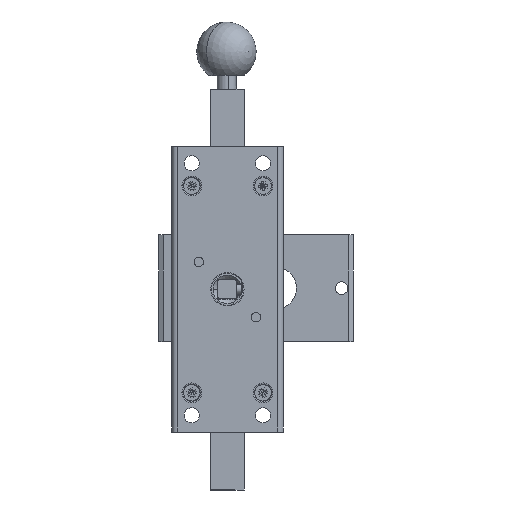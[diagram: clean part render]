
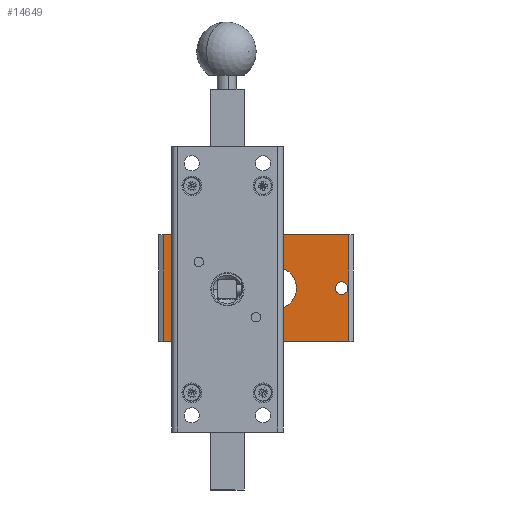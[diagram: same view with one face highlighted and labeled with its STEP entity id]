
A CAD part, front view. The second image highlights one B-rep face of the part: STEP entity #14649.
In plain terms, the highlighted planar face has unit normal (0, -1, 0) as drawn and (0, 0, 1) by its records, which use the part's own axes.
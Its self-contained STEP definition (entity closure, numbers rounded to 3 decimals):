
#101 = VERTEX_POINT ( 'NONE', #19185 ) ;
#416 = ORIENTED_EDGE ( 'NONE', *, *, #23453, .F. ) ;
#510 = VERTEX_POINT ( 'NONE', #23496 ) ;
#552 = LINE ( 'NONE', #13190, #14320 ) ;
#784 = CARTESIAN_POINT ( 'NONE',  ( 33., 22.5, 4. ) ) ;
#888 = ORIENTED_EDGE ( 'NONE', *, *, #12713, .T. ) ;
#951 = ORIENTED_EDGE ( 'NONE', *, *, #7923, .T. ) ;
#1323 = ORIENTED_EDGE ( 'NONE', *, *, #18962, .F. ) ;
#1489 = ORIENTED_EDGE ( 'NONE', *, *, #19384, .T. ) ;
#1651 = ORIENTED_EDGE ( 'NONE', *, *, #19684, .T. ) ;
#1780 = DIRECTION ( 'NONE',  ( 1., 0., 0. ) ) ;
#1827 = CARTESIAN_POINT ( 'NONE',  ( 33., 31.5, 4. ) ) ;
#1932 = EDGE_CURVE ( 'NONE', #10475, #20086, #10921, .T. ) ;
#1961 = ORIENTED_EDGE ( 'NONE', *, *, #2813, .F. ) ;
#2155 = VECTOR ( 'NONE', #18275, 1000. ) ;
#2417 = ORIENTED_EDGE ( 'NONE', *, *, #16027, .F. ) ;
#2473 = ORIENTED_EDGE ( 'NONE', *, *, #1932, .T. ) ;
#2510 = VERTEX_POINT ( 'NONE', #18686 ) ;
#2512 = LINE ( 'NONE', #9561, #7514 ) ;
#2591 = CIRCLE ( 'NONE', #13715, 2.65 ) ;
#2600 = VERTEX_POINT ( 'NONE', #15090 ) ;
#2623 = ORIENTED_EDGE ( 'NONE', *, *, #2859, .F. ) ;
#2696 = DIRECTION ( 'NONE',  ( 1., 0., 0. ) ) ;
#2813 = EDGE_CURVE ( 'NONE', #101, #9417, #8092, .T. ) ;
#2859 = EDGE_CURVE ( 'NONE', #9417, #4319, #7846, .T. ) ;
#2905 = EDGE_LOOP ( 'NONE', ( #20701, #2417, #2473, #1323, #2623, #1961, #416, #1651, #1489 ) ) ;
#3388 = DIRECTION ( 'NONE',  ( 0., 0., 1. ) ) ;
#3605 = CARTESIAN_POINT ( 'NONE',  ( 2.046, 45., 4. ) ) ;
#3748 = DIRECTION ( 'NONE',  ( 0., 0., 1. ) ) ;
#3865 = EDGE_LOOP ( 'NONE', ( #951, #888, #22017, #22300 ) ) ;
#4024 = LINE ( 'NONE', #15179, #22101 ) ;
#4319 = VERTEX_POINT ( 'NONE', #1827 ) ;
#4815 = AXIS2_PLACEMENT_3D ( 'NONE', #9463, #21947, #11364 ) ;
#4832 = LINE ( 'NONE', #21842, #7999 ) ;
#5168 = AXIS2_PLACEMENT_3D ( 'NONE', #784, #13921, #2696 ) ;
#5588 = CARTESIAN_POINT ( 'NONE',  ( 2.046, 0., 4. ) ) ;
#5617 = EDGE_CURVE ( 'NONE', #2510, #15841, #22046, .T. ) ;
#5644 = DIRECTION ( 'NONE',  ( -1., 0., 0. ) ) ;
#5824 = DIRECTION ( 'NONE',  ( -1., 0., 0. ) ) ;
#6336 = VERTEX_POINT ( 'NONE', #6636 ) ;
#6636 = CARTESIAN_POINT ( 'NONE',  ( 48.3, 5.3, 4. ) ) ;
#7367 = CIRCLE ( 'NONE', #8165, 9. ) ;
#7514 = VECTOR ( 'NONE', #20369, 1000. ) ;
#7846 = LINE ( 'NONE', #18547, #8015 ) ;
#7923 = EDGE_CURVE ( 'NONE', #15841, #19041, #552, .T. ) ;
#7999 = VECTOR ( 'NONE', #5644, 1000. ) ;
#8015 = VECTOR ( 'NONE', #5824, 1000. ) ;
#8092 = CIRCLE ( 'NONE', #13544, 9. ) ;
#8165 = AXIS2_PLACEMENT_3D ( 'NONE', #23398, #13016, #1780 ) ;
#9417 = VERTEX_POINT ( 'NONE', #14149 ) ;
#9463 = CARTESIAN_POINT ( 'NONE',  ( 5., 22.5, 4. ) ) ;
#9524 = VERTEX_POINT ( 'NONE', #10832 ) ;
#9561 = CARTESIAN_POINT ( 'NONE',  ( 0., 13.5, 4. ) ) ;
#9732 = EDGE_CURVE ( 'NONE', #9524, #18636, #2591, .T. ) ;
#9823 = DIRECTION ( 'NONE',  ( 0., 0., 1. ) ) ;
#10475 = VERTEX_POINT ( 'NONE', #17475 ) ;
#10727 = CIRCLE ( 'NONE', #16221, 2.8 ) ;
#10832 = CARTESIAN_POINT ( 'NONE',  ( 7.65, 22.5, 4. ) ) ;
#10852 = VECTOR ( 'NONE', #15032, 1000. ) ;
#10921 = LINE ( 'NONE', #20276, #10852 ) ;
#11072 = DIRECTION ( 'NONE',  ( 0., 0., -1. ) ) ;
#11096 = FACE_BOUND ( 'NONE', #2905, .T. ) ;
#11251 = CARTESIAN_POINT ( 'NONE',  ( 2.35, 22.5, 4. ) ) ;
#11364 = DIRECTION ( 'NONE',  ( 1., 0., 0. ) ) ;
#12713 = EDGE_CURVE ( 'NONE', #19041, #16896, #20644, .T. ) ;
#13016 = DIRECTION ( 'NONE',  ( 0., 0., 1. ) ) ;
#13190 = CARTESIAN_POINT ( 'NONE',  ( 0., 0., 4. ) ) ;
#13368 = DIRECTION ( 'NONE',  ( 0., -1., 0. ) ) ;
#13518 = CARTESIAN_POINT ( 'NONE',  ( 80., 45., 4. ) ) ;
#13544 = AXIS2_PLACEMENT_3D ( 'NONE', #14876, #3748, #16648 ) ;
#13715 = AXIS2_PLACEMENT_3D ( 'NONE', #20611, #9823, #22273 ) ;
#13921 = DIRECTION ( 'NONE',  ( 0., 0., 1. ) ) ;
#14149 = CARTESIAN_POINT ( 'NONE',  ( 58., 31.5, 4. ) ) ;
#14320 = VECTOR ( 'NONE', #20305, 1000. ) ;
#14552 = CARTESIAN_POINT ( 'NONE',  ( 45.5, 5.3, 4. ) ) ;
#14649 = ADVANCED_FACE ( 'NONE', ( #21639, #11096, #15924 ), #20007, .F. ) ;
#14699 = CARTESIAN_POINT ( 'NONE',  ( 0., 45., 4. ) ) ;
#14876 = CARTESIAN_POINT ( 'NONE',  ( 58., 22.5, 4. ) ) ;
#15032 = DIRECTION ( 'NONE',  ( -1., 0., 0. ) ) ;
#15090 = CARTESIAN_POINT ( 'NONE',  ( 58., 13.5, 4. ) ) ;
#15179 = CARTESIAN_POINT ( 'NONE',  ( 42.7, 0., 4. ) ) ;
#15540 = EDGE_CURVE ( 'NONE', #18636, #9524, #16982, .T. ) ;
#15768 = LINE ( 'NONE', #21539, #19896 ) ;
#15841 = VERTEX_POINT ( 'NONE', #5588 ) ;
#15924 = FACE_OUTER_BOUND ( 'NONE', #3865, .T. ) ;
#16027 = EDGE_CURVE ( 'NONE', #10475, #20442, #4024, .T. ) ;
#16221 = AXIS2_PLACEMENT_3D ( 'NONE', #14552, #3388, #16328 ) ;
#16328 = DIRECTION ( 'NONE',  ( 1., 0., 0. ) ) ;
#16466 = EDGE_CURVE ( 'NONE', #20442, #6336, #10727, .T. ) ;
#16502 = CARTESIAN_POINT ( 'NONE',  ( 42.7, 5.3, 4. ) ) ;
#16522 = VECTOR ( 'NONE', #16614, 1000. ) ;
#16614 = DIRECTION ( 'NONE',  ( 0., 1., 0. ) ) ;
#16648 = DIRECTION ( 'NONE',  ( 1., 0., 0. ) ) ;
#16896 = VERTEX_POINT ( 'NONE', #13518 ) ;
#16982 = CIRCLE ( 'NONE', #4815, 2.65 ) ;
#17475 = CARTESIAN_POINT ( 'NONE',  ( 42.7, 13.5, 4. ) ) ;
#17660 = AXIS2_PLACEMENT_3D ( 'NONE', #14699, #11072, #23341 ) ;
#18057 = DIRECTION ( 'NONE',  ( 0., -1., 0. ) ) ;
#18258 = ORIENTED_EDGE ( 'NONE', *, *, #9732, .F. ) ;
#18275 = DIRECTION ( 'NONE',  ( 0., -1., 0. ) ) ;
#18365 = CARTESIAN_POINT ( 'NONE',  ( 80., 45., 4. ) ) ;
#18547 = CARTESIAN_POINT ( 'NONE',  ( 0., 31.5, 4. ) ) ;
#18636 = VERTEX_POINT ( 'NONE', #11251 ) ;
#18686 = CARTESIAN_POINT ( 'NONE',  ( 2.046, 45., 4. ) ) ;
#18962 = EDGE_CURVE ( 'NONE', #4319, #20086, #21750, .T. ) ;
#19041 = VERTEX_POINT ( 'NONE', #20998 ) ;
#19185 = CARTESIAN_POINT ( 'NONE',  ( 67., 22.5, 4. ) ) ;
#19384 = EDGE_CURVE ( 'NONE', #510, #6336, #15768, .T. ) ;
#19433 = CARTESIAN_POINT ( 'NONE',  ( 33., 13.5, 4. ) ) ;
#19684 = EDGE_CURVE ( 'NONE', #2600, #510, #2512, .T. ) ;
#19896 = VECTOR ( 'NONE', #18057, 1000. ) ;
#19922 = EDGE_LOOP ( 'NONE', ( #18258, #20911 ) ) ;
#20007 = PLANE ( 'NONE',  #17660 ) ;
#20086 = VERTEX_POINT ( 'NONE', #19433 ) ;
#20276 = CARTESIAN_POINT ( 'NONE',  ( 0., 13.5, 4. ) ) ;
#20305 = DIRECTION ( 'NONE',  ( 1., 0., 0. ) ) ;
#20369 = DIRECTION ( 'NONE',  ( -1., 0., 0. ) ) ;
#20442 = VERTEX_POINT ( 'NONE', #16502 ) ;
#20611 = CARTESIAN_POINT ( 'NONE',  ( 5., 22.5, 4. ) ) ;
#20644 = LINE ( 'NONE', #18365, #16522 ) ;
#20701 = ORIENTED_EDGE ( 'NONE', *, *, #16466, .F. ) ;
#20911 = ORIENTED_EDGE ( 'NONE', *, *, #15540, .F. ) ;
#20998 = CARTESIAN_POINT ( 'NONE',  ( 80., 0., 4. ) ) ;
#21539 = CARTESIAN_POINT ( 'NONE',  ( 48.3, 0., 4. ) ) ;
#21639 = FACE_BOUND ( 'NONE', #19922, .T. ) ;
#21695 = EDGE_CURVE ( 'NONE', #16896, #2510, #4832, .T. ) ;
#21750 = CIRCLE ( 'NONE', #5168, 9. ) ;
#21842 = CARTESIAN_POINT ( 'NONE',  ( 0., 45., 4. ) ) ;
#21947 = DIRECTION ( 'NONE',  ( 0., 0., 1. ) ) ;
#22017 = ORIENTED_EDGE ( 'NONE', *, *, #21695, .T. ) ;
#22046 = LINE ( 'NONE', #3605, #2155 ) ;
#22101 = VECTOR ( 'NONE', #13368, 1000. ) ;
#22273 = DIRECTION ( 'NONE',  ( 1., 0., 0. ) ) ;
#22300 = ORIENTED_EDGE ( 'NONE', *, *, #5617, .T. ) ;
#23341 = DIRECTION ( 'NONE',  ( -1., 0., 0. ) ) ;
#23398 = CARTESIAN_POINT ( 'NONE',  ( 58., 22.5, 4. ) ) ;
#23453 = EDGE_CURVE ( 'NONE', #2600, #101, #7367, .T. ) ;
#23496 = CARTESIAN_POINT ( 'NONE',  ( 48.3, 13.5, 4. ) ) ;
